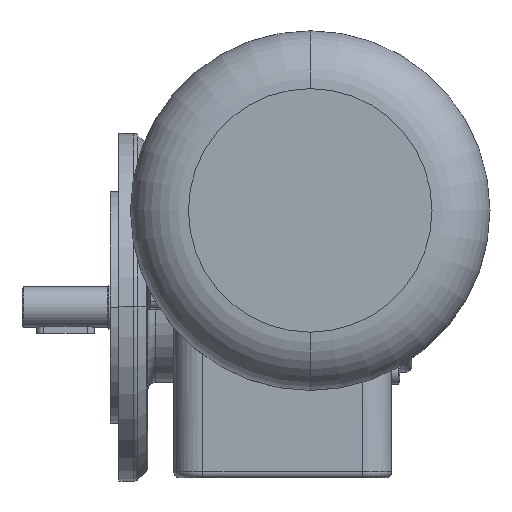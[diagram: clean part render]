
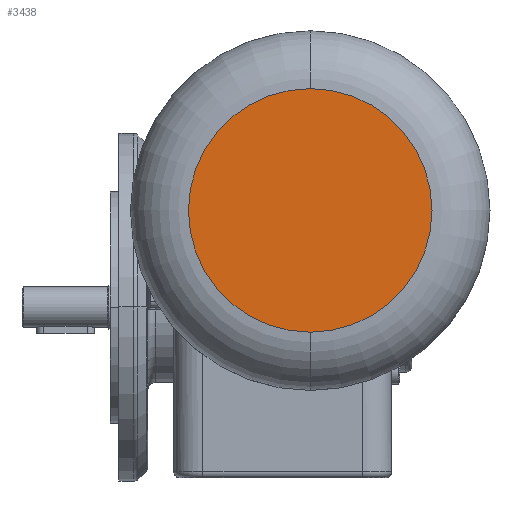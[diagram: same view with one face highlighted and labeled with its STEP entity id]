
A CAD part, top view. The second image highlights one B-rep face of the part: STEP entity #3438.
In plain terms, the highlighted planar face has unit normal (0, 0, 1).
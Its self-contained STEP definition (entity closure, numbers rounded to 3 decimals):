
#122 = ORIENTED_EDGE ( 'NONE', *, *, #7100, .T. ) ;
#742 = DIRECTION ( 'NONE',  ( 0., -1., 0. ) ) ;
#931 = EDGE_CURVE ( 'NONE', #11985, #9728, #9836, .T. ) ;
#1719 = PLANE ( 'NONE',  #11209 ) ;
#2095 = AXIS2_PLACEMENT_3D ( 'NONE', #10344, #5460, #11334 ) ;
#3438 = ADVANCED_FACE ( 'NONE', ( #4793 ), #1719, .F. ) ;
#3504 = CARTESIAN_POINT ( 'NONE',  ( -82.08, 0.407, 233.5 ) ) ;
#4793 = FACE_OUTER_BOUND ( 'NONE', #8432, .T. ) ;
#5460 = DIRECTION ( 'NONE',  ( 0., 0., 1. ) ) ;
#5687 = CARTESIAN_POINT ( 'NONE',  ( -82.08, 42.407, 233.5 ) ) ;
#5866 = CARTESIAN_POINT ( 'NONE',  ( -82.08, 84.407, 233.5 ) ) ;
#6518 = CARTESIAN_POINT ( 'NONE',  ( -82.08, 42.407, 233.5 ) ) ;
#7100 = EDGE_CURVE ( 'NONE', #9728, #11985, #9578, .T. ) ;
#8410 = DIRECTION ( 'NONE',  ( 0., 0., 1. ) ) ;
#8432 = EDGE_LOOP ( 'NONE', ( #9783, #122 ) ) ;
#8573 = DIRECTION ( 'NONE',  ( 0., 0., -1. ) ) ;
#9043 = AXIS2_PLACEMENT_3D ( 'NONE', #6518, #8410, #12352 ) ;
#9578 = CIRCLE ( 'NONE', #2095, 42. ) ;
#9728 = VERTEX_POINT ( 'NONE', #5866 ) ;
#9783 = ORIENTED_EDGE ( 'NONE', *, *, #931, .T. ) ;
#9836 = CIRCLE ( 'NONE', #9043, 42. ) ;
#10344 = CARTESIAN_POINT ( 'NONE',  ( -82.08, 42.407, 233.5 ) ) ;
#11209 = AXIS2_PLACEMENT_3D ( 'NONE', #5687, #8573, #742 ) ;
#11334 = DIRECTION ( 'NONE',  ( 0., -1., 0. ) ) ;
#11985 = VERTEX_POINT ( 'NONE', #3504 ) ;
#12352 = DIRECTION ( 'NONE',  ( 0., -1., 0. ) ) ;
